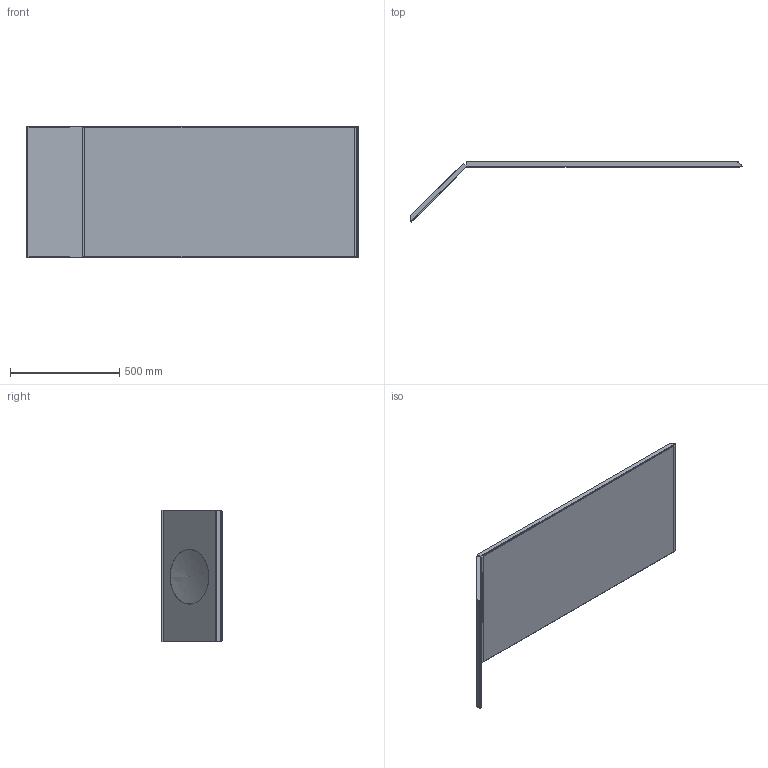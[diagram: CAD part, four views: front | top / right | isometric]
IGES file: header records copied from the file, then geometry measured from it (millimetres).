
Start section: Data from Parasolid IGES Translator 19.0.9, Copyright(c) 2006 Siemens PL M Software. All Rights Reserved.
Global section: file name: noorth-mirror-H 60 D 2,5 W 162_4242.igs; native system: By Siemens PLM Incorporated; preprocessor: XPlus GENERIC/IGES 19.0.9; author: Noname; organization: Noname; date: 20210721.092624; units: metre
Bounding box: 1517.36 x 274.85 x 600 mm (x, y, z)
Volume: 21731136 mm3; surface area: 4138574 mm2
Topology: 7 solids, 7 shells, 101 faces, 215 edges, 127 vertices
Faces by surface type: plane 83, cylinder 15, bspline 3
Full cylindrical faces by diameter (mm): 250 x1
